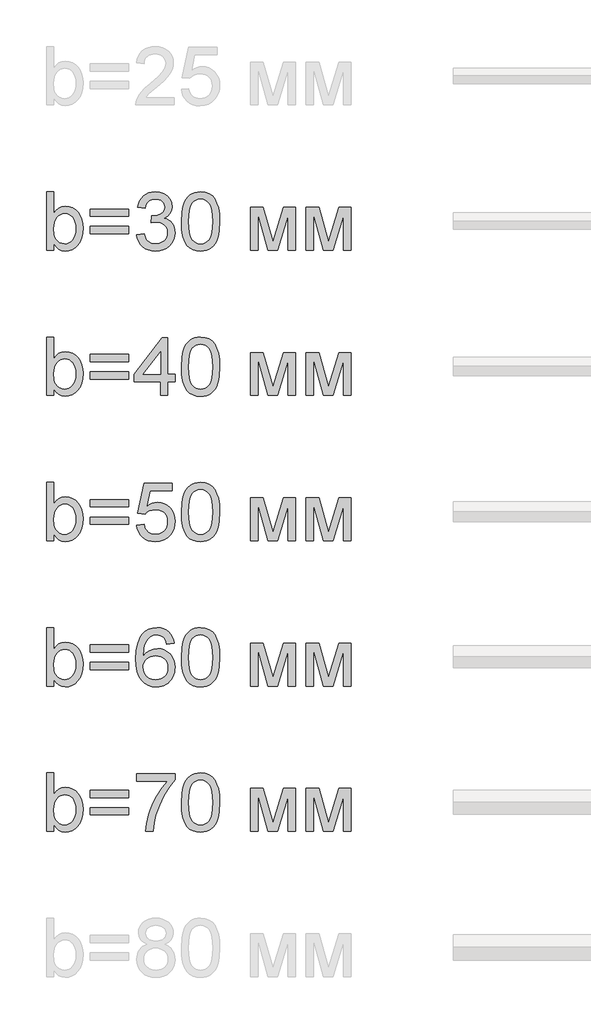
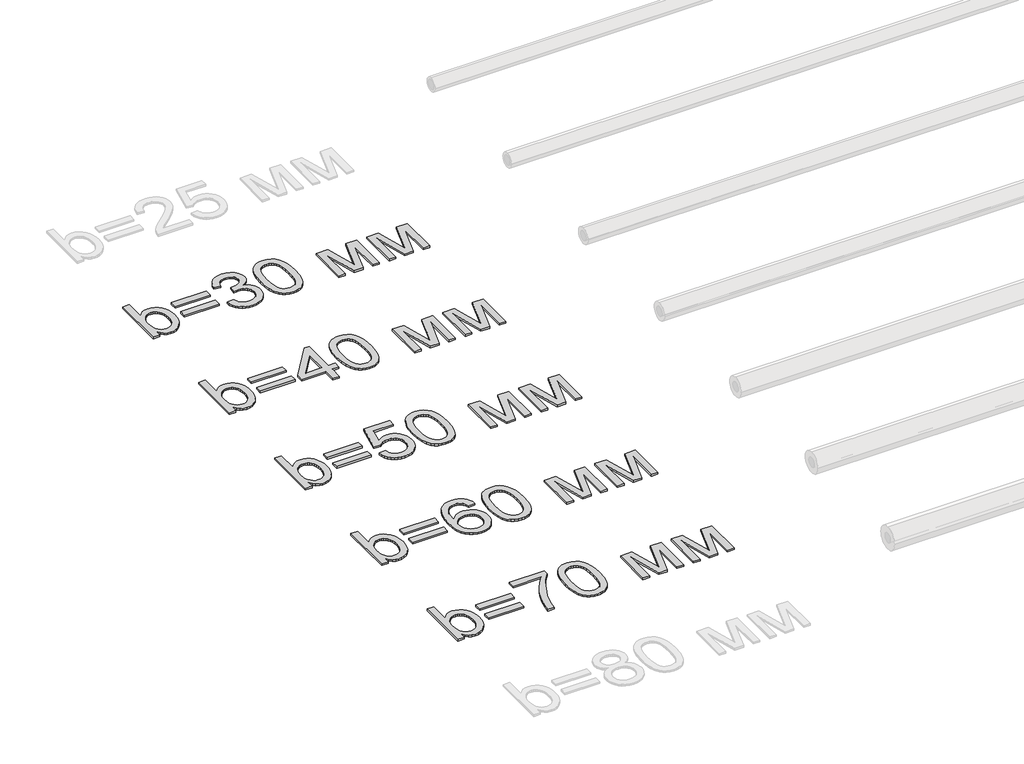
# One storey, part 46 of 86: 5 proxies.
"""IFC4 building model written with IfcOpenShell, lengths in millimetres."""

from ifc_helpers import new_model, si_unit, origin, origin_with_axes, place, context, project, spatial, polyline, outline, extrude, element, save

model = new_model("IFC4")

# Units and contexts
model_context = context("Model", 3, world=origin())
ifc_project = project(units=[si_unit("LENGTHUNIT", "METRE", prefix="MILLI")], contexts=[model_context])

# Site, building, storey
site = spatial("IfcSite", under=ifc_project)
building = spatial("IfcBuilding", under=site)
storey = spatial("IfcBuildingStorey", under=building, Name="Уровень 1", Elevation=0.0)

# Proxies
placement = place(None, origin())
element("IfcBuildingElementProxy", 1, Name="Текст модели 1", ObjectType="Текст модели 1", at=placement, inside=storey, context=model_context, shape_type="SweptSolid", body=[
    extrude(outline(polyline([(-2840.3692012, 26169.2937088), (-2915.7114338, 26169.2937088), (-2915.7114338, 26772.0315697), (-2840.3692012, 26772.0315697), (-2840.3692012, 26548.5064694), (-2815.5923488, 26580.3742473), (-2787.6149231, 26603.1369457), (-2756.436924, 26616.7945648), (-2722.0583516, 26621.3471045), (-2683.2468011, 26617.2452202), (-2646.5689661, 26604.9395675), (-2614.1217742, 26585.2026984), (-2588.0021525, 26558.8071653), (-2567.5295195, 26526.0104854), (-2552.0232934, 26487.0701762), (-2542.2560264, 26443.6049185), (-2539.0002708, 26397.233393), (-2542.3709895, 26343.7249568), (-2552.4831459, 26296.6544555), (-2569.3367398, 26256.0218892), (-2592.9317712, 26221.8272577), (-2621.2540864, 26194.7235517), (-2652.2895312, 26175.3637617), (-2686.0381057, 26163.7478877), (-2722.49981, 26159.8759297), (-2758.0096195, 26164.8699278), (-2789.4911213, 26179.8519221), (-2816.9443152, 26204.8219125), (-2840.3692012, 26239.7798991), (-2840.3692012, 26169.2937088)]), holes=[polyline([(-2840.3692012, 26393.7017259), (-2835.2188533, 26330.8674811), (-2828.7809184, 26307.065516), (-2819.7678095, 26288.3403224), (-2801.5116655, 26265.0993774), (-2780.2940714, 26248.4987024), (-2756.1150273, 26238.5382973), (-2728.9745331, 26235.2181623), (-2706.4417609, 26237.6645776), (-2685.4908812, 26245.0038234), (-2666.1218942, 26257.2358997), (-2648.3347997, 26274.3608066), (-2633.4631701, 26296.3325588), (-2622.8405775, 26323.105171), (-2616.4670219, 26354.6786432), (-2614.3425034, 26391.0529755), (-2616.3796499, 26428.1170865), (-2622.4910896, 26459.9940614), (-2632.6768223, 26486.6839001), (-2646.9368481, 26508.1866028), (-2664.0847476, 26524.7320955), (-2682.9341014, 26536.5503046), (-2703.4849093, 26543.64123), (-2725.7371715, 26546.0048719), (-2748.2699437, 26543.5584566), (-2769.2208233, 26536.2192108), (-2788.5898104, 26523.9871344), (-2806.3769049, 26506.8622276), (-2821.2485345, 26485.1112046), (-2831.8711271, 26459.00078), (-2838.2446827, 26428.5309538), (-2840.3692012, 26393.7017259)])]), origin_with_axes(), (0.0, 0.0, 1.0), 20.0),
    extrude(outline(polyline([(-2068.1113169, 26517.7515346), (-2463.6580381, 26517.7515346), (-2463.6580381, 26593.0937672), (-2068.1113169, 26593.0937672), (-2068.1113169, 26517.7515346)])), origin_with_axes(), (0.0, 0.0, 1.0), 20.0),
    extrude(outline(polyline([(-2068.1113169, 26338.8137322), (-2463.6580381, 26338.8137322), (-2463.6580381, 26414.1559648), (-2068.1113169, 26414.1559648), (-2068.1113169, 26338.8137322)])), origin_with_axes(), (0.0, 0.0, 1.0), 20.0),
    extrude(outline(polyline([(-1983.3513052, 26329.3959531), (-1908.0090726, 26338.8137322), (-1891.1416832, 26291.4673194), (-1879.769531, 26273.5606633), (-1866.4384072, 26259.498374), (-1850.8448091, 26248.8757814), (-1832.6852341, 26241.2882153), (-1811.9596822, 26236.7356756), (-1788.6681534, 26235.2181623), (-1761.3713094, 26237.3058927), (-1737.0175213, 26243.5690836), (-1715.6067892, 26254.0077352), (-1697.139113, 26268.6218475), (-1682.2674833, 26286.3169715), (-1671.6448907, 26305.9986582), (-1665.2713352, 26327.6669077), (-1663.1468166, 26351.32172), (-1665.2529411, 26373.8498937), (-1671.5713143, 26394.3455193), (-1682.1019364, 26412.808597), (-1696.8448074, 26429.2391266), (-1714.834237, 26442.7266002), (-1735.1045349, 26452.36051), (-1757.6557012, 26458.1408558), (-1782.4877359, 26460.0676378), (-1806.289701, 26458.0074986), (-1835.3155904, 26451.8270811), (-1826.9278809, 26527.1693137), (-1814.8613515, 26526.2863969), (-1769.7222306, 26531.6942622), (-1729.3655758, 26547.9178582), (-1712.7557037, 26560.1867228), (-1700.8915093, 26575.3618551), (-1693.7729927, 26593.4432551), (-1691.4001539, 26614.430923), (-1693.1200022, 26631.4684579), (-1698.2795472, 26646.9700854), (-1706.8787888, 26660.9358057), (-1718.9177271, 26673.3656186), (-1733.6697951, 26683.5697454), (-1750.4084259, 26690.8584075), (-1789.8453758, 26696.6893371), (-1810.5019498, 26695.2178091), (-1829.3559021, 26690.8032252), (-1846.4072325, 26683.4455853), (-1861.6559412, 26673.1448894), (-1874.7249491, 26659.9011376), (-1885.2371771, 26643.7143298), (-1893.1926253, 26624.584466), (-1898.5912936, 26602.5115463), (-1973.9335262, 26611.9293254), (-1965.0031907, 26647.8989875), (-1951.7502419, 26679.5828243), (-1934.1746795, 26706.9808359), (-1912.2765038, 26730.0930222), (-1886.7454933, 26748.4411368), (-1858.2714269, 26761.5469328), (-1826.8543045, 26769.4104105), (-1792.4941261, 26772.0315697), (-1745.1293193, 26766.8628277), (-1701.6272733, 26751.3566016), (-1664.9494384, 26726.8924489), (-1638.0572646, 26694.8499271), (-1621.5577571, 26657.9329689), (-1616.0579213, 26618.8455069), (-1621.2818456, 26582.4251894), (-1636.9536186, 26549.3893862), (-1662.852511, 26521.2464136), (-1698.7577938, 26499.5045877), (-1673.6498476, 26491.6503071), (-1651.595322, 26480.4483003), (-1632.5942169, 26465.8985674), (-1616.6465324, 26448.0011083), (-1604.02818, 26427.1973815), (-1595.0150711, 26403.9288453), (-1589.6072058, 26378.1954998), (-1587.804584, 26349.9973448), (-1591.4098276, 26311.7744055), (-1602.2255582, 26276.5680986), (-1620.251776, 26244.378424), (-1645.4884809, 26215.2053818), (-1676.2342186, 26190.9987465), (-1710.787535, 26173.7082927), (-1749.1484301, 26163.3340205), (-1791.3169038, 26159.8759297), (-1829.4294785, 26162.8281827), (-1864.1575388, 26171.6849418), (-1895.5010848, 26186.4462068), (-1923.4601164, 26207.1119779), (-1946.9033966, 26232.4682444), (-1964.6996881, 26261.3009958), (-1976.848991, 26293.610232), (-1983.3513052, 26329.3959531)])), origin_with_axes(), (0.0, 0.0, 1.0), 20.0),
    extrude(outline(polyline([(-1521.8801305, 26465.8065969), (-1516.3435065, 26562.2836501), (-1509.4227264, 26603.1967265), (-1499.7336344, 26639.2261694), (-1487.317617, 26670.6662845), (-1472.2160611, 26697.8113772), (-1454.4289667, 26720.6614476), (-1433.9563336, 26739.2164957), (-1410.7291842, 26753.5730906), (-1384.6785404, 26763.8278012), (-1355.8044023, 26769.9806276), (-1324.1067699, 26772.0315697), (-1277.6800621, 26767.1755274), (-1236.1093966, 26752.6074004), (-1201.3445481, 26728.8974058), (-1175.335291, 26696.6157607), (-1155.6903925, 26656.0383766), (-1140.0186195, 26607.4411651), (-1129.7547118, 26545.7289604), (-1126.3334093, 26465.8065969), (-1131.814851, 26369.8813667), (-1138.6666532, 26329.106246), (-1148.2591762, 26293.1227884), (-1160.5786245, 26261.6688778), (-1175.6112025, 26234.4823983), (-1193.3569103, 26211.56335), (-1213.8157477, 26192.9117329), (-1237.0704884, 26178.458569), (-1263.2039056, 26168.1348805), (-1292.2159994, 26161.9406674), (-1324.1067699, 26159.8759297), (-1365.6038589, 26163.4627792), (-1402.3920585, 26174.2233275), (-1434.4713684, 26192.1575748), (-1461.8417889, 26217.265521), (-1488.1085633, 26262.6529621), (-1506.8705451, 26319.2056218), (-1518.1277341, 26386.9235001), (-1521.8801305, 26465.8065969)]), holes=[polyline([(-1446.5378979, 26465.9537497), (-1444.3306059, 26400.456959), (-1437.70873, 26347.440565), (-1426.6722701, 26306.9045676), (-1411.2212263, 26278.848967), (-1392.532821, 26259.7604899), (-1371.7842765, 26246.1258635), (-1348.9755928, 26237.9450876), (-1324.1067699, 26235.2181623), (-1299.237947, 26237.9542847), (-1276.4292633, 26246.1626517), (-1255.6807188, 26259.8432634), (-1236.9923134, 26278.9961198), (-1221.5412696, 26307.0977057), (-1210.5048098, 26347.624506), (-1203.8829339, 26400.5765206), (-1201.6756419, 26465.9537497), (-1203.8093575, 26529.7168965), (-1210.2105042, 26581.79979), (-1220.879082, 26622.2024301), (-1235.815091, 26650.9248169), (-1254.1907967, 26670.9467945), (-1275.1784645, 26685.248207), (-1298.7780945, 26693.8290546), (-1324.9896867, 26696.6893371), (-1349.7297508, 26694.1693454), (-1372.1521585, 26686.6093704), (-1392.2569095, 26674.0094121), (-1410.044004, 26656.3694704), (-1426.0100825, 26625.0995008), (-1437.4144244, 26582.9402242), (-1444.2570295, 26529.8916405), (-1446.5378979, 26465.9537497)])]), origin_with_axes(), (0.0, 0.0, 1.0), 20.0),
    extrude(outline(polyline([(-806.1289207, 26611.9293254), (-676.4873056, 26611.9293254), (-576.5705557, 26257.5853876), (-468.8547075, 26611.9293254), (-344.6577459, 26611.9293254), (-344.6577459, 26169.2937088), (-419.9999785, 26169.2937088), (-419.9999785, 26525.6977857), (-528.3044379, 26169.2937088), (-627.1911182, 26169.2937088), (-730.7866881, 26542.7675103), (-730.7866881, 26169.2937088), (-806.1289207, 26169.2937088), (-806.1289207, 26611.9293254)])), origin_with_axes(), (0.0, 0.0, 1.0), 20.0),
    extrude(outline(polyline([(-231.644397, 26611.9293254), (-102.0027819, 26611.9293254), (-2.086032, 26257.5853876), (105.6298162, 26611.9293254), (229.8267777, 26611.9293254), (229.8267777, 26169.2937088), (154.4845451, 26169.2937088), (154.4845451, 26525.6977857), (46.1800857, 26169.2937088), (-52.7065946, 26169.2937088), (-156.3021644, 26542.7675103), (-156.3021644, 26169.2937088), (-231.644397, 26169.2937088), (-231.644397, 26611.9293254)])), origin_with_axes(), (0.0, 0.0, 1.0), 20.0),
])
element("IfcBuildingElementProxy", 2, Name="Текст модели 1", ObjectType="Текст модели 1", at=placement, inside=storey, context=model_context, shape_type="SweptSolid", body=[
    extrude(outline(polyline([(-2840.3692012, 24669.2937088), (-2915.7114338, 24669.2937088), (-2915.7114338, 25272.0315697), (-2840.3692012, 25272.0315697), (-2840.3692012, 25048.5064694), (-2815.5923488, 25080.3742473), (-2787.6149231, 25103.1369457), (-2756.436924, 25116.7945648), (-2722.0583516, 25121.3471045), (-2683.2468011, 25117.2452202), (-2646.5689661, 25104.9395675), (-2614.1217742, 25085.2026984), (-2588.0021525, 25058.8071653), (-2567.5295195, 25026.0104854), (-2552.0232934, 24987.0701762), (-2542.2560264, 24943.6049185), (-2539.0002708, 24897.233393), (-2542.3709895, 24843.7249568), (-2552.4831459, 24796.6544555), (-2569.3367398, 24756.0218892), (-2592.9317712, 24721.8272577), (-2621.2540864, 24694.7235517), (-2652.2895312, 24675.3637617), (-2686.0381057, 24663.7478877), (-2722.49981, 24659.8759297), (-2758.0096195, 24664.8699278), (-2789.4911213, 24679.8519221), (-2816.9443152, 24704.8219125), (-2840.3692012, 24739.7798991), (-2840.3692012, 24669.2937088)]), holes=[polyline([(-2840.3692012, 24893.7017259), (-2835.2188533, 24830.8674811), (-2828.7809184, 24807.065516), (-2819.7678095, 24788.3403224), (-2801.5116655, 24765.0993774), (-2780.2940714, 24748.4987024), (-2756.1150273, 24738.5382973), (-2728.9745331, 24735.2181623), (-2706.4417609, 24737.6645776), (-2685.4908812, 24745.0038234), (-2666.1218942, 24757.2358997), (-2648.3347997, 24774.3608066), (-2633.4631701, 24796.3325588), (-2622.8405775, 24823.105171), (-2616.4670219, 24854.6786432), (-2614.3425034, 24891.0529755), (-2616.3796499, 24928.1170865), (-2622.4910896, 24959.9940614), (-2632.6768223, 24986.6839001), (-2646.9368481, 25008.1866028), (-2664.0847476, 25024.7320955), (-2682.9341014, 25036.5503046), (-2703.4849093, 25043.64123), (-2725.7371715, 25046.0048719), (-2748.2699437, 25043.5584566), (-2769.2208233, 25036.2192108), (-2788.5898104, 25023.9871344), (-2806.3769049, 25006.8622276), (-2821.2485345, 24985.1112046), (-2831.8711271, 24959.00078), (-2838.2446827, 24928.5309538), (-2840.3692012, 24893.7017259)])]), origin_with_axes(), (0.0, 0.0, 1.0), 20.0),
    extrude(outline(polyline([(-2068.1113169, 25017.7515346), (-2463.6580381, 25017.7515346), (-2463.6580381, 25093.0937672), (-2068.1113169, 25093.0937672), (-2068.1113169, 25017.7515346)])), origin_with_axes(), (0.0, 0.0, 1.0), 20.0),
    extrude(outline(polyline([(-2068.1113169, 24838.8137322), (-2463.6580381, 24838.8137322), (-2463.6580381, 24914.1559648), (-2068.1113169, 24914.1559648), (-2068.1113169, 24838.8137322)])), origin_with_axes(), (0.0, 0.0, 1.0), 20.0),
    extrude(outline(polyline([(-1738.4890493, 24669.2937088), (-1738.4890493, 24810.5603949), (-2011.6046425, 24810.5603949), (-2011.6046425, 24885.9026276), (-1719.6534911, 25262.6137906), (-1663.1468166, 25262.6137906), (-1663.1468166, 24885.9026276), (-1587.804584, 24885.9026276), (-1587.804584, 24810.5603949), (-1663.1468166, 24810.5603949), (-1663.1468166, 24669.2937088), (-1738.4890493, 24669.2937088)]), holes=[polyline([(-1738.4890493, 24885.9026276), (-1738.4890493, 25118.6983541), (-1918.8983797, 24885.9026276), (-1738.4890493, 24885.9026276)])]), origin_with_axes(), (0.0, 0.0, 1.0), 20.0),
    extrude(outline(polyline([(-1521.8801305, 24965.8065969), (-1516.3435065, 25062.2836501), (-1509.4227264, 25103.1967265), (-1499.7336344, 25139.2261694), (-1487.317617, 25170.6662845), (-1472.2160611, 25197.8113772), (-1454.4289667, 25220.6614476), (-1433.9563336, 25239.2164957), (-1410.7291842, 25253.5730906), (-1384.6785404, 25263.8278012), (-1355.8044023, 25269.9806276), (-1324.1067699, 25272.0315697), (-1277.6800621, 25267.1755274), (-1236.1093966, 25252.6074004), (-1201.3445481, 25228.8974058), (-1175.335291, 25196.6157607), (-1155.6903925, 25156.0383766), (-1140.0186195, 25107.4411651), (-1129.7547118, 25045.7289604), (-1126.3334093, 24965.8065969), (-1131.814851, 24869.8813667), (-1138.6666532, 24829.106246), (-1148.2591762, 24793.1227884), (-1160.5786245, 24761.6688778), (-1175.6112025, 24734.4823983), (-1193.3569103, 24711.56335), (-1213.8157477, 24692.9117329), (-1237.0704884, 24678.458569), (-1263.2039056, 24668.1348805), (-1292.2159994, 24661.9406674), (-1324.1067699, 24659.8759297), (-1365.6038589, 24663.4627792), (-1402.3920585, 24674.2233275), (-1434.4713684, 24692.1575748), (-1461.8417889, 24717.265521), (-1488.1085633, 24762.6529621), (-1506.8705451, 24819.2056218), (-1518.1277341, 24886.9235001), (-1521.8801305, 24965.8065969)]), holes=[polyline([(-1446.5378979, 24965.9537497), (-1444.3306059, 24900.456959), (-1437.70873, 24847.440565), (-1426.6722701, 24806.9045676), (-1411.2212263, 24778.848967), (-1392.532821, 24759.7604899), (-1371.7842765, 24746.1258635), (-1348.9755928, 24737.9450876), (-1324.1067699, 24735.2181623), (-1299.237947, 24737.9542847), (-1276.4292633, 24746.1626517), (-1255.6807188, 24759.8432634), (-1236.9923134, 24778.9961198), (-1221.5412696, 24807.0977057), (-1210.5048098, 24847.624506), (-1203.8829339, 24900.5765206), (-1201.6756419, 24965.9537497), (-1203.8093575, 25029.7168965), (-1210.2105042, 25081.79979), (-1220.879082, 25122.2024301), (-1235.815091, 25150.9248169), (-1254.1907967, 25170.9467945), (-1275.1784645, 25185.248207), (-1298.7780945, 25193.8290546), (-1324.9896867, 25196.6893371), (-1349.7297508, 25194.1693454), (-1372.1521585, 25186.6093704), (-1392.2569095, 25174.0094121), (-1410.044004, 25156.3694704), (-1426.0100825, 25125.0995008), (-1437.4144244, 25082.9402242), (-1444.2570295, 25029.8916405), (-1446.5378979, 24965.9537497)])]), origin_with_axes(), (0.0, 0.0, 1.0), 20.0),
    extrude(outline(polyline([(-806.1289207, 25111.9293254), (-676.4873056, 25111.9293254), (-576.5705557, 24757.5853876), (-468.8547075, 25111.9293254), (-344.6577459, 25111.9293254), (-344.6577459, 24669.2937088), (-419.9999785, 24669.2937088), (-419.9999785, 25025.6977857), (-528.3044379, 24669.2937088), (-627.1911182, 24669.2937088), (-730.7866881, 25042.7675103), (-730.7866881, 24669.2937088), (-806.1289207, 24669.2937088), (-806.1289207, 25111.9293254)])), origin_with_axes(), (0.0, 0.0, 1.0), 20.0),
    extrude(outline(polyline([(-231.644397, 25111.9293254), (-102.0027819, 25111.9293254), (-2.086032, 24757.5853876), (105.6298162, 25111.9293254), (229.8267777, 25111.9293254), (229.8267777, 24669.2937088), (154.4845451, 24669.2937088), (154.4845451, 25025.6977857), (46.1800857, 24669.2937088), (-52.7065946, 24669.2937088), (-156.3021644, 25042.7675103), (-156.3021644, 24669.2937088), (-231.644397, 24669.2937088), (-231.644397, 25111.9293254)])), origin_with_axes(), (0.0, 0.0, 1.0), 20.0),
])
element("IfcBuildingElementProxy", 3, Name="Текст модели 1", ObjectType="Текст модели 1", at=placement, inside=storey, context=model_context, shape_type="SweptSolid", body=[
    extrude(outline(polyline([(-2840.3692012, 23169.2937088), (-2915.7114338, 23169.2937088), (-2915.7114338, 23772.0315697), (-2840.3692012, 23772.0315697), (-2840.3692012, 23548.5064694), (-2815.5923488, 23580.3742473), (-2787.6149231, 23603.1369457), (-2756.436924, 23616.7945648), (-2722.0583516, 23621.3471045), (-2683.2468011, 23617.2452202), (-2646.5689661, 23604.9395675), (-2614.1217742, 23585.2026984), (-2588.0021525, 23558.8071653), (-2567.5295195, 23526.0104854), (-2552.0232934, 23487.0701762), (-2542.2560264, 23443.6049185), (-2539.0002708, 23397.233393), (-2542.3709895, 23343.7249568), (-2552.4831459, 23296.6544555), (-2569.3367398, 23256.0218892), (-2592.9317712, 23221.8272577), (-2621.2540864, 23194.7235517), (-2652.2895312, 23175.3637617), (-2686.0381057, 23163.7478877), (-2722.49981, 23159.8759297), (-2758.0096195, 23164.8699278), (-2789.4911213, 23179.8519221), (-2816.9443152, 23204.8219125), (-2840.3692012, 23239.7798991), (-2840.3692012, 23169.2937088)]), holes=[polyline([(-2840.3692012, 23393.7017259), (-2835.2188533, 23330.8674811), (-2828.7809184, 23307.065516), (-2819.7678095, 23288.3403224), (-2801.5116655, 23265.0993774), (-2780.2940714, 23248.4987024), (-2756.1150273, 23238.5382973), (-2728.9745331, 23235.2181623), (-2706.4417609, 23237.6645776), (-2685.4908812, 23245.0038234), (-2666.1218942, 23257.2358997), (-2648.3347997, 23274.3608066), (-2633.4631701, 23296.3325588), (-2622.8405775, 23323.105171), (-2616.4670219, 23354.6786432), (-2614.3425034, 23391.0529755), (-2616.3796499, 23428.1170865), (-2622.4910896, 23459.9940614), (-2632.6768223, 23486.6839001), (-2646.9368481, 23508.1866028), (-2664.0847476, 23524.7320955), (-2682.9341014, 23536.5503046), (-2703.4849093, 23543.64123), (-2725.7371715, 23546.0048719), (-2748.2699437, 23543.5584566), (-2769.2208233, 23536.2192108), (-2788.5898104, 23523.9871344), (-2806.3769049, 23506.8622276), (-2821.2485345, 23485.1112046), (-2831.8711271, 23459.00078), (-2838.2446827, 23428.5309538), (-2840.3692012, 23393.7017259)])]), origin_with_axes(), (0.0, 0.0, 1.0), 20.0),
    extrude(outline(polyline([(-2068.1113169, 23517.7515346), (-2463.6580381, 23517.7515346), (-2463.6580381, 23593.0937672), (-2068.1113169, 23593.0937672), (-2068.1113169, 23517.7515346)])), origin_with_axes(), (0.0, 0.0, 1.0), 20.0),
    extrude(outline(polyline([(-2068.1113169, 23338.8137322), (-2463.6580381, 23338.8137322), (-2463.6580381, 23414.1559648), (-2068.1113169, 23414.1559648), (-2068.1113169, 23338.8137322)])), origin_with_axes(), (0.0, 0.0, 1.0), 20.0),
    extrude(outline(polyline([(-1983.3513052, 23329.3959531), (-1908.0090726, 23338.8137322), (-1902.3804781, 23314.5933013), (-1894.1767096, 23293.5826409), (-1883.3977672, 23275.7817508), (-1870.0436507, 23261.1906312), (-1854.1419515, 23249.8276761), (-1835.7202606, 23241.7112795), (-1814.778578, 23236.8414416), (-1791.3169038, 23235.2181623), (-1762.6221081, 23237.4760381), (-1737.3118269, 23244.2496653), (-1715.38606, 23255.539044), (-1696.8448074, 23271.3441743), (-1682.1019364, 23290.8833067), (-1671.5713143, 23313.3746922), (-1665.2529411, 23338.8183307), (-1663.1468166, 23367.2142222), (-1665.1195838, 23394.0512138), (-1671.0378854, 23417.9083611), (-1680.9017214, 23438.7856644), (-1694.7110918, 23456.6831234), (-1712.5119819, 23471.0397183), (-1734.3503768, 23481.2944289), (-1760.2262766, 23487.4472553), (-1790.1396814, 23489.4981974), (-1826.6887576, 23486.2240476), (-1856.2848641, 23476.4015984), (-1879.9212823, 23461.3552248), (-1898.5912936, 23442.409302), (-1973.9335262, 23451.8270811), (-1908.0090726, 23762.6137906), (-1616.0579213, 23762.6137906), (-1616.0579213, 23687.271558), (-1847.0878142, 23687.271558), (-1879.314277, 23521.2832018), (-1852.7256058, 23540.3394891), (-1825.4931411, 23553.951123), (-1797.6168829, 23562.1181032), (-1769.0968313, 23564.84043), (-1732.4052008, 23561.4651127), (-1698.7026115, 23551.3391608), (-1667.9890634, 23534.4625743), (-1640.2645565, 23510.8353531), (-1617.3133186, 23481.9014342), (-1600.9195772, 23449.1047543), (-1591.0833323, 23412.4453135), (-1587.804584, 23371.9231117), (-1590.756837, 23332.8908321), (-1599.6135961, 23296.5808791), (-1614.3748611, 23262.993253), (-1635.0406322, 23232.1279536), (-1666.34739, 23200.5176931), (-1702.8780721, 23177.9389357), (-1744.6326786, 23164.3916812), (-1791.6112094, 23159.8759297), (-1830.4917377, 23162.777599), (-1865.6106727, 23171.4826067), (-1896.9680142, 23185.9909529), (-1924.5637624, 23206.3026375), (-1947.5241974, 23231.4059852), (-1964.9755996, 23260.2893203), (-1976.9179689, 23292.952643), (-1983.3513052, 23329.3959531)])), origin_with_axes(), (0.0, 0.0, 1.0), 20.0),
    extrude(outline(polyline([(-1521.8801305, 23465.8065969), (-1516.3435065, 23562.2836501), (-1509.4227264, 23603.1967265), (-1499.7336344, 23639.2261694), (-1487.317617, 23670.6662845), (-1472.2160611, 23697.8113772), (-1454.4289667, 23720.6614476), (-1433.9563336, 23739.2164957), (-1410.7291842, 23753.5730906), (-1384.6785404, 23763.8278012), (-1355.8044023, 23769.9806276), (-1324.1067699, 23772.0315697), (-1277.6800621, 23767.1755274), (-1236.1093966, 23752.6074004), (-1201.3445481, 23728.8974058), (-1175.335291, 23696.6157607), (-1155.6903925, 23656.0383766), (-1140.0186195, 23607.4411651), (-1129.7547118, 23545.7289604), (-1126.3334093, 23465.8065969), (-1131.814851, 23369.8813667), (-1138.6666532, 23329.106246), (-1148.2591762, 23293.1227884), (-1160.5786245, 23261.6688778), (-1175.6112025, 23234.4823983), (-1193.3569103, 23211.56335), (-1213.8157477, 23192.9117329), (-1237.0704884, 23178.458569), (-1263.2039056, 23168.1348805), (-1292.2159994, 23161.9406674), (-1324.1067699, 23159.8759297), (-1365.6038589, 23163.4627792), (-1402.3920585, 23174.2233275), (-1434.4713684, 23192.1575748), (-1461.8417889, 23217.265521), (-1488.1085633, 23262.6529621), (-1506.8705451, 23319.2056218), (-1518.1277341, 23386.9235001), (-1521.8801305, 23465.8065969)]), holes=[polyline([(-1446.5378979, 23465.9537497), (-1444.3306059, 23400.456959), (-1437.70873, 23347.440565), (-1426.6722701, 23306.9045676), (-1411.2212263, 23278.848967), (-1392.532821, 23259.7604899), (-1371.7842765, 23246.1258635), (-1348.9755928, 23237.9450876), (-1324.1067699, 23235.2181623), (-1299.237947, 23237.9542847), (-1276.4292633, 23246.1626517), (-1255.6807188, 23259.8432634), (-1236.9923134, 23278.9961198), (-1221.5412696, 23307.0977057), (-1210.5048098, 23347.624506), (-1203.8829339, 23400.5765206), (-1201.6756419, 23465.9537497), (-1203.8093575, 23529.7168965), (-1210.2105042, 23581.79979), (-1220.879082, 23622.2024301), (-1235.815091, 23650.9248169), (-1254.1907967, 23670.9467945), (-1275.1784645, 23685.248207), (-1298.7780945, 23693.8290546), (-1324.9896867, 23696.6893371), (-1349.7297508, 23694.1693454), (-1372.1521585, 23686.6093704), (-1392.2569095, 23674.0094121), (-1410.044004, 23656.3694704), (-1426.0100825, 23625.0995008), (-1437.4144244, 23582.9402242), (-1444.2570295, 23529.8916405), (-1446.5378979, 23465.9537497)])]), origin_with_axes(), (0.0, 0.0, 1.0), 20.0),
    extrude(outline(polyline([(-806.1289207, 23611.9293254), (-676.4873056, 23611.9293254), (-576.5705557, 23257.5853876), (-468.8547075, 23611.9293254), (-344.6577459, 23611.9293254), (-344.6577459, 23169.2937088), (-419.9999785, 23169.2937088), (-419.9999785, 23525.6977857), (-528.3044379, 23169.2937088), (-627.1911182, 23169.2937088), (-730.7866881, 23542.7675103), (-730.7866881, 23169.2937088), (-806.1289207, 23169.2937088), (-806.1289207, 23611.9293254)])), origin_with_axes(), (0.0, 0.0, 1.0), 20.0),
    extrude(outline(polyline([(-231.644397, 23611.9293254), (-102.0027819, 23611.9293254), (-2.086032, 23257.5853876), (105.6298162, 23611.9293254), (229.8267777, 23611.9293254), (229.8267777, 23169.2937088), (154.4845451, 23169.2937088), (154.4845451, 23525.6977857), (46.1800857, 23169.2937088), (-52.7065946, 23169.2937088), (-156.3021644, 23542.7675103), (-156.3021644, 23169.2937088), (-231.644397, 23169.2937088), (-231.644397, 23611.9293254)])), origin_with_axes(), (0.0, 0.0, 1.0), 20.0),
])
element("IfcBuildingElementProxy", 4, Name="Текст модели 1", ObjectType="Текст модели 1", at=placement, inside=storey, context=model_context, shape_type="SweptSolid", body=[
    extrude(outline(polyline([(-2840.3692012, 21669.2937088), (-2915.7114338, 21669.2937088), (-2915.7114338, 22272.0315697), (-2840.3692012, 22272.0315697), (-2840.3692012, 22048.5064694), (-2815.5923488, 22080.3742473), (-2787.6149231, 22103.1369457), (-2756.436924, 22116.7945648), (-2722.0583516, 22121.3471045), (-2683.2468011, 22117.2452202), (-2646.5689661, 22104.9395675), (-2614.1217742, 22085.2026984), (-2588.0021525, 22058.8071653), (-2567.5295195, 22026.0104854), (-2552.0232934, 21987.0701762), (-2542.2560264, 21943.6049185), (-2539.0002708, 21897.233393), (-2542.3709895, 21843.7249568), (-2552.4831459, 21796.6544555), (-2569.3367398, 21756.0218892), (-2592.9317712, 21721.8272577), (-2621.2540864, 21694.7235517), (-2652.2895312, 21675.3637617), (-2686.0381057, 21663.7478877), (-2722.49981, 21659.8759297), (-2758.0096195, 21664.8699278), (-2789.4911213, 21679.8519221), (-2816.9443152, 21704.8219125), (-2840.3692012, 21739.7798991), (-2840.3692012, 21669.2937088)]), holes=[polyline([(-2840.3692012, 21893.7017259), (-2835.2188533, 21830.8674811), (-2828.7809184, 21807.065516), (-2819.7678095, 21788.3403224), (-2801.5116655, 21765.0993774), (-2780.2940714, 21748.4987024), (-2756.1150273, 21738.5382973), (-2728.9745331, 21735.2181623), (-2706.4417609, 21737.6645776), (-2685.4908812, 21745.0038234), (-2666.1218942, 21757.2358997), (-2648.3347997, 21774.3608066), (-2633.4631701, 21796.3325588), (-2622.8405775, 21823.105171), (-2616.4670219, 21854.6786432), (-2614.3425034, 21891.0529755), (-2616.3796499, 21928.1170865), (-2622.4910896, 21959.9940614), (-2632.6768223, 21986.6839001), (-2646.9368481, 22008.1866028), (-2664.0847476, 22024.7320955), (-2682.9341014, 22036.5503046), (-2703.4849093, 22043.64123), (-2725.7371715, 22046.0048719), (-2748.2699437, 22043.5584566), (-2769.2208233, 22036.2192108), (-2788.5898104, 22023.9871344), (-2806.3769049, 22006.8622276), (-2821.2485345, 21985.1112046), (-2831.8711271, 21959.00078), (-2838.2446827, 21928.5309538), (-2840.3692012, 21893.7017259)])]), origin_with_axes(), (0.0, 0.0, 1.0), 20.0),
    extrude(outline(polyline([(-2068.1113169, 22017.7515346), (-2463.6580381, 22017.7515346), (-2463.6580381, 22093.0937672), (-2068.1113169, 22093.0937672), (-2068.1113169, 22017.7515346)])), origin_with_axes(), (0.0, 0.0, 1.0), 20.0),
    extrude(outline(polyline([(-2068.1113169, 21838.8137322), (-2463.6580381, 21838.8137322), (-2463.6580381, 21914.1559648), (-2068.1113169, 21914.1559648), (-2068.1113169, 21838.8137322)])), origin_with_axes(), (0.0, 0.0, 1.0), 20.0),
    extrude(outline(polyline([(-1597.2223631, 22111.9293254), (-1672.5645957, 22102.5115463), (-1684.7047016, 22139.8515688), (-1701.1122385, 22165.3457911), (-1717.3082434, 22179.0585925), (-1735.2884759, 22188.8534506), (-1755.0529361, 22194.7303655), (-1776.601624, 22196.6893371), (-1811.6239899, 22192.1276003), (-1844.5862167, 22178.4423901), (-1872.8947362, 22149.6188358), (-1896.0161196, 22109.9427626), (-1905.0522211, 22084.6370799), (-1911.6327103, 22053.8223643), (-1917.4268517, 21975.6658344), (-1887.2053458, 22010.9273236), (-1850.9873634, 22035.7777524), (-1810.7962554, 22050.5114263), (-1768.6553729, 22055.4226509), (-1732.4557845, 22052.0657277), (-1699.0520994, 22041.9949581), (-1668.4443174, 22025.2103421), (-1640.6324385, 22001.7118796), (-1617.5202522, 21972.8975224), (-1601.0115477, 21940.1652218), (-1591.1063249, 21903.5149781), (-1587.804584, 21862.9467911), (-1589.3588855, 21835.4798016), (-1594.0217897, 21808.9968965), (-1601.7932969, 21783.4980757), (-1612.6734069, 21758.9833392), (-1626.2758437, 21736.3677936), (-1642.2143311, 21716.5665452), (-1660.4888692, 21699.5795941), (-1681.099458, 21685.4069402), (-1703.6046391, 21674.2371231), (-1727.562954, 21666.2586823), (-1752.9744028, 21661.4716179), (-1779.8389855, 21659.8759297), (-1824.7527786, 21664.1065727), (-1865.3163671, 21676.7985015), (-1901.529751, 21697.9517162), (-1933.3929303, 21727.5662168), (-1959.3699977, 21766.8928021), (-1977.9250458, 21817.1822709), (-1989.0580747, 21878.4346231), (-1992.7690843, 21950.6498587), (-1988.648806, 22031.6114888), (-1976.2879709, 22100.7089245), (-1955.6865792, 22157.9421659), (-1942.2956746, 22182.1097138), (-1926.8446308, 22203.311213), (-1895.5838582, 22233.3763691), (-1859.3382847, 22254.8514805), (-1818.1079101, 22267.7365474), (-1771.8927344, 22272.0315697), (-1737.1922652, 22269.3736223), (-1705.7843399, 22261.39978), (-1677.6689584, 22248.110043), (-1652.8461208, 22229.5044111), (-1631.9872116, 22206.2082837), (-1615.7636157, 22178.8470603), (-1604.1753328, 22147.4207409), (-1597.2223631, 22111.9293254)]), holes=[polyline([(-1917.4268517, 21864.1240134), (-1913.0674501, 21830.7387224), (-1899.9892451, 21798.8617475), (-1879.682159, 21771.4545389), (-1853.6361137, 21751.4785465), (-1822.2005973, 21739.2832584), (-1785.7250974, 21735.2181623), (-1759.5364979, 21737.3242868), (-1736.0058458, 21743.64266), (-1715.1331411, 21754.1732821), (-1696.9183838, 21768.9161531), (-1682.1433232, 21787.2734647), (-1671.5897084, 21808.6474086), (-1665.2575396, 21833.0379849), (-1663.1468166, 21860.4451935), (-1665.2299484, 21886.7809458), (-1671.4793438, 21910.1644451), (-1681.8950028, 21930.5956914), (-1696.4769254, 21948.0746847), (-1714.746865, 21962.0771932), (-1736.226575, 21972.0789849), (-1760.9160554, 21978.08006), (-1788.8153062, 21980.0804183), (-1814.6544178, 21978.08006), (-1838.4609814, 21972.0789849), (-1860.234997, 21962.0771932), (-1879.9764646, 21948.0746847), (-1896.361009, 21930.8256177), (-1908.0642549, 21911.0841501), (-1915.0862025, 21888.850282), (-1917.4268517, 21864.1240134)])]), origin_with_axes(), (0.0, 0.0, 1.0), 20.0),
    extrude(outline(polyline([(-1521.8801305, 21965.8065969), (-1516.3435065, 22062.2836501), (-1509.4227264, 22103.1967265), (-1499.7336344, 22139.2261694), (-1487.317617, 22170.6662845), (-1472.2160611, 22197.8113772), (-1454.4289667, 22220.6614476), (-1433.9563336, 22239.2164957), (-1410.7291842, 22253.5730906), (-1384.6785404, 22263.8278012), (-1355.8044023, 22269.9806276), (-1324.1067699, 22272.0315697), (-1277.6800621, 22267.1755274), (-1236.1093966, 22252.6074004), (-1201.3445481, 22228.8974058), (-1175.335291, 22196.6157607), (-1155.6903925, 22156.0383766), (-1140.0186195, 22107.4411651), (-1129.7547118, 22045.7289604), (-1126.3334093, 21965.8065969), (-1131.814851, 21869.8813667), (-1138.6666532, 21829.106246), (-1148.2591762, 21793.1227884), (-1160.5786245, 21761.6688778), (-1175.6112025, 21734.4823983), (-1193.3569103, 21711.56335), (-1213.8157477, 21692.9117329), (-1237.0704884, 21678.458569), (-1263.2039056, 21668.1348805), (-1292.2159994, 21661.9406674), (-1324.1067699, 21659.8759297), (-1365.6038589, 21663.4627792), (-1402.3920585, 21674.2233275), (-1434.4713684, 21692.1575748), (-1461.8417889, 21717.265521), (-1488.1085633, 21762.6529621), (-1506.8705451, 21819.2056218), (-1518.1277341, 21886.9235001), (-1521.8801305, 21965.8065969)]), holes=[polyline([(-1446.5378979, 21965.9537497), (-1444.3306059, 21900.456959), (-1437.70873, 21847.440565), (-1426.6722701, 21806.9045676), (-1411.2212263, 21778.848967), (-1392.532821, 21759.7604899), (-1371.7842765, 21746.1258635), (-1348.9755928, 21737.9450876), (-1324.1067699, 21735.2181623), (-1299.237947, 21737.9542847), (-1276.4292633, 21746.1626517), (-1255.6807188, 21759.8432634), (-1236.9923134, 21778.9961198), (-1221.5412696, 21807.0977057), (-1210.5048098, 21847.624506), (-1203.8829339, 21900.5765206), (-1201.6756419, 21965.9537497), (-1203.8093575, 22029.7168965), (-1210.2105042, 22081.79979), (-1220.879082, 22122.2024301), (-1235.815091, 22150.9248169), (-1254.1907967, 22170.9467945), (-1275.1784645, 22185.248207), (-1298.7780945, 22193.8290546), (-1324.9896867, 22196.6893371), (-1349.7297508, 22194.1693454), (-1372.1521585, 22186.6093704), (-1392.2569095, 22174.0094121), (-1410.044004, 22156.3694704), (-1426.0100825, 22125.0995008), (-1437.4144244, 22082.9402242), (-1444.2570295, 22029.8916405), (-1446.5378979, 21965.9537497)])]), origin_with_axes(), (0.0, 0.0, 1.0), 20.0),
    extrude(outline(polyline([(-806.1289207, 22111.9293254), (-676.4873056, 22111.9293254), (-576.5705557, 21757.5853876), (-468.8547075, 22111.9293254), (-344.6577459, 22111.9293254), (-344.6577459, 21669.2937088), (-419.9999785, 21669.2937088), (-419.9999785, 22025.6977857), (-528.3044379, 21669.2937088), (-627.1911182, 21669.2937088), (-730.7866881, 22042.7675103), (-730.7866881, 21669.2937088), (-806.1289207, 21669.2937088), (-806.1289207, 22111.9293254)])), origin_with_axes(), (0.0, 0.0, 1.0), 20.0),
    extrude(outline(polyline([(-231.644397, 22111.9293254), (-102.0027819, 22111.9293254), (-2.086032, 21757.5853876), (105.6298162, 22111.9293254), (229.8267777, 22111.9293254), (229.8267777, 21669.2937088), (154.4845451, 21669.2937088), (154.4845451, 22025.6977857), (46.1800857, 21669.2937088), (-52.7065946, 21669.2937088), (-156.3021644, 22042.7675103), (-156.3021644, 21669.2937088), (-231.644397, 21669.2937088), (-231.644397, 22111.9293254)])), origin_with_axes(), (0.0, 0.0, 1.0), 20.0),
])
element("IfcBuildingElementProxy", 5, Name="Текст модели 1", ObjectType="Текст модели 1", at=placement, inside=storey, context=model_context, shape_type="SweptSolid", body=[
    extrude(outline(polyline([(-2840.3692012, 20169.2937088), (-2915.7114338, 20169.2937088), (-2915.7114338, 20772.0315697), (-2840.3692012, 20772.0315697), (-2840.3692012, 20548.5064694), (-2815.5923488, 20580.3742473), (-2787.6149231, 20603.1369457), (-2756.436924, 20616.7945648), (-2722.0583516, 20621.3471045), (-2683.2468011, 20617.2452202), (-2646.5689661, 20604.9395675), (-2614.1217742, 20585.2026984), (-2588.0021525, 20558.8071653), (-2567.5295195, 20526.0104854), (-2552.0232934, 20487.0701762), (-2542.2560264, 20443.6049185), (-2539.0002708, 20397.233393), (-2542.3709895, 20343.7249568), (-2552.4831459, 20296.6544555), (-2569.3367398, 20256.0218892), (-2592.9317712, 20221.8272577), (-2621.2540864, 20194.7235517), (-2652.2895312, 20175.3637617), (-2686.0381057, 20163.7478877), (-2722.49981, 20159.8759297), (-2758.0096195, 20164.8699278), (-2789.4911213, 20179.8519221), (-2816.9443152, 20204.8219125), (-2840.3692012, 20239.7798991), (-2840.3692012, 20169.2937088)]), holes=[polyline([(-2840.3692012, 20393.7017259), (-2835.2188533, 20330.8674811), (-2828.7809184, 20307.065516), (-2819.7678095, 20288.3403224), (-2801.5116655, 20265.0993774), (-2780.2940714, 20248.4987024), (-2756.1150273, 20238.5382973), (-2728.9745331, 20235.2181623), (-2706.4417609, 20237.6645776), (-2685.4908812, 20245.0038234), (-2666.1218942, 20257.2358997), (-2648.3347997, 20274.3608066), (-2633.4631701, 20296.3325588), (-2622.8405775, 20323.105171), (-2616.4670219, 20354.6786432), (-2614.3425034, 20391.0529755), (-2616.3796499, 20428.1170865), (-2622.4910896, 20459.9940614), (-2632.6768223, 20486.6839001), (-2646.9368481, 20508.1866028), (-2664.0847476, 20524.7320955), (-2682.9341014, 20536.5503046), (-2703.4849093, 20543.64123), (-2725.7371715, 20546.0048719), (-2748.2699437, 20543.5584566), (-2769.2208233, 20536.2192108), (-2788.5898104, 20523.9871344), (-2806.3769049, 20506.8622276), (-2821.2485345, 20485.1112046), (-2831.8711271, 20459.00078), (-2838.2446827, 20428.5309538), (-2840.3692012, 20393.7017259)])]), origin_with_axes(), (0.0, 0.0, 1.0), 20.0),
    extrude(outline(polyline([(-2068.1113169, 20517.7515346), (-2463.6580381, 20517.7515346), (-2463.6580381, 20593.0937672), (-2068.1113169, 20593.0937672), (-2068.1113169, 20517.7515346)])), origin_with_axes(), (0.0, 0.0, 1.0), 20.0),
    extrude(outline(polyline([(-2068.1113169, 20338.8137322), (-2463.6580381, 20338.8137322), (-2463.6580381, 20414.1559648), (-2068.1113169, 20414.1559648), (-2068.1113169, 20338.8137322)])), origin_with_axes(), (0.0, 0.0, 1.0), 20.0),
    extrude(outline(polyline([(-1983.3513052, 20687.271558), (-1983.3513052, 20762.6137906), (-1587.804584, 20762.6137906), (-1587.804584, 20701.6925322), (-1644.1824998, 20630.3418193), (-1700.0085926, 20539.6037251), (-1749.2495976, 20437.7555948), (-1769.138218, 20385.7692703), (-1785.8722502, 20333.0747731), (-1803.8248916, 20254.7526963), (-1813.8312819, 20169.2937088), (-1889.1735145, 20169.2937088), (-1881.0249283, 20246.953598), (-1859.2279201, 20339.2551906), (-1843.3584105, 20388.6203558), (-1824.371101, 20437.0934072), (-1802.2659916, 20484.6743447), (-1777.0430823, 20531.3631685), (-1721.7872067, 20616.5830326), (-1663.1468166, 20687.271558), (-1983.3513052, 20687.271558)])), origin_with_axes(), (0.0, 0.0, 1.0), 20.0),
    extrude(outline(polyline([(-1521.8801305, 20465.8065969), (-1516.3435065, 20562.2836501), (-1509.4227264, 20603.1967265), (-1499.7336344, 20639.2261694), (-1487.317617, 20670.6662845), (-1472.2160611, 20697.8113772), (-1454.4289667, 20720.6614476), (-1433.9563336, 20739.2164957), (-1410.7291842, 20753.5730906), (-1384.6785404, 20763.8278012), (-1355.8044023, 20769.9806276), (-1324.1067699, 20772.0315697), (-1277.6800621, 20767.1755274), (-1236.1093966, 20752.6074004), (-1201.3445481, 20728.8974058), (-1175.335291, 20696.6157607), (-1155.6903925, 20656.0383766), (-1140.0186195, 20607.4411651), (-1129.7547118, 20545.7289604), (-1126.3334093, 20465.8065969), (-1131.814851, 20369.8813667), (-1138.6666532, 20329.106246), (-1148.2591762, 20293.1227884), (-1160.5786245, 20261.6688778), (-1175.6112025, 20234.4823983), (-1193.3569103, 20211.56335), (-1213.8157477, 20192.9117329), (-1237.0704884, 20178.458569), (-1263.2039056, 20168.1348805), (-1292.2159994, 20161.9406674), (-1324.1067699, 20159.8759297), (-1365.6038589, 20163.4627792), (-1402.3920585, 20174.2233275), (-1434.4713684, 20192.1575748), (-1461.8417889, 20217.265521), (-1488.1085633, 20262.6529621), (-1506.8705451, 20319.2056218), (-1518.1277341, 20386.9235001), (-1521.8801305, 20465.8065969)]), holes=[polyline([(-1446.5378979, 20465.9537497), (-1444.3306059, 20400.456959), (-1437.70873, 20347.440565), (-1426.6722701, 20306.9045676), (-1411.2212263, 20278.848967), (-1392.532821, 20259.7604899), (-1371.7842765, 20246.1258635), (-1348.9755928, 20237.9450876), (-1324.1067699, 20235.2181623), (-1299.237947, 20237.9542847), (-1276.4292633, 20246.1626517), (-1255.6807188, 20259.8432634), (-1236.9923134, 20278.9961198), (-1221.5412696, 20307.0977057), (-1210.5048098, 20347.624506), (-1203.8829339, 20400.5765206), (-1201.6756419, 20465.9537497), (-1203.8093575, 20529.7168965), (-1210.2105042, 20581.79979), (-1220.879082, 20622.2024301), (-1235.815091, 20650.9248169), (-1254.1907967, 20670.9467945), (-1275.1784645, 20685.248207), (-1298.7780945, 20693.8290546), (-1324.9896867, 20696.6893371), (-1349.7297508, 20694.1693454), (-1372.1521585, 20686.6093704), (-1392.2569095, 20674.0094121), (-1410.044004, 20656.3694704), (-1426.0100825, 20625.0995008), (-1437.4144244, 20582.9402242), (-1444.2570295, 20529.8916405), (-1446.5378979, 20465.9537497)])]), origin_with_axes(), (0.0, 0.0, 1.0), 20.0),
    extrude(outline(polyline([(-806.1289207, 20611.9293254), (-676.4873056, 20611.9293254), (-576.5705557, 20257.5853876), (-468.8547075, 20611.9293254), (-344.6577459, 20611.9293254), (-344.6577459, 20169.2937088), (-419.9999785, 20169.2937088), (-419.9999785, 20525.6977857), (-528.3044379, 20169.2937088), (-627.1911182, 20169.2937088), (-730.7866881, 20542.7675103), (-730.7866881, 20169.2937088), (-806.1289207, 20169.2937088), (-806.1289207, 20611.9293254)])), origin_with_axes(), (0.0, 0.0, 1.0), 20.0),
    extrude(outline(polyline([(-231.644397, 20611.9293254), (-102.0027819, 20611.9293254), (-2.086032, 20257.5853876), (105.6298162, 20611.9293254), (229.8267777, 20611.9293254), (229.8267777, 20169.2937088), (154.4845451, 20169.2937088), (154.4845451, 20525.6977857), (46.1800857, 20169.2937088), (-52.7065946, 20169.2937088), (-156.3021644, 20542.7675103), (-156.3021644, 20169.2937088), (-231.644397, 20169.2937088), (-231.644397, 20611.9293254)])), origin_with_axes(), (0.0, 0.0, 1.0), 20.0),
])

save(model, "model.ifc")
